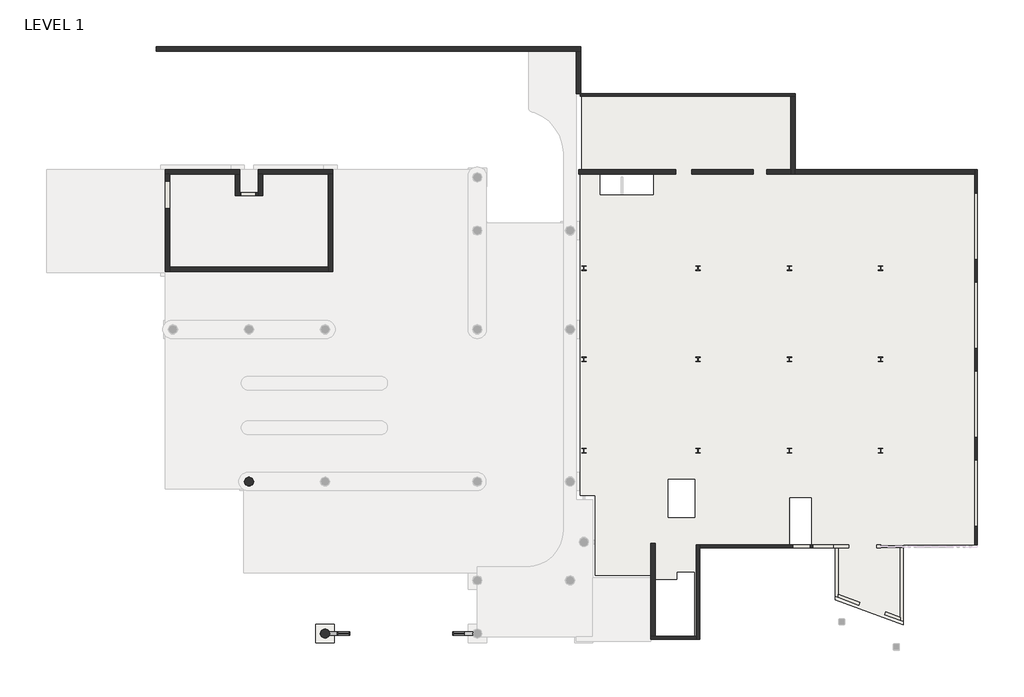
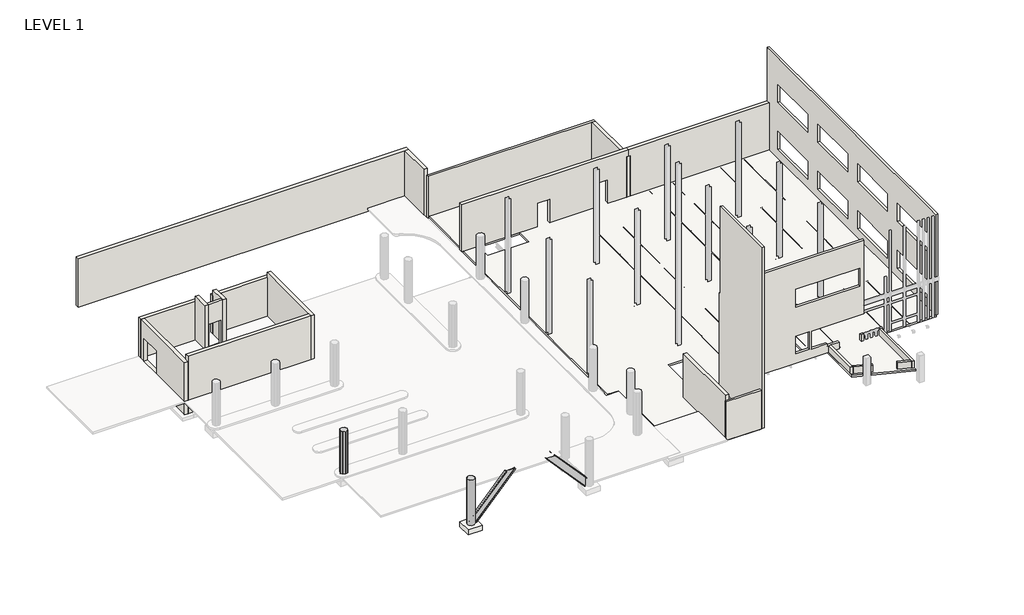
# One storey, part 1 of 3: 23 walls, 2 columns, 2 members, 2 slabs.
"""IFC4 building model written with IfcOpenShell, lengths in millimetres."""

from ifc_helpers import new_model, si_unit, point, frame, frame_2d, origin, origin_with_axes, place, context, project, spatial, polyline, circle_curve, ellipse_curve, trimmed, segment, composite_curve, outline, extrude, faceted_brep, element, save
from ifc_brep_helpers import plane_surface, revolved_surface, advanced_brep

model = new_model("IFC4")

# Units and contexts
model_context = context("Model", 3, world=origin())
ifc_project = project(units=[si_unit("LENGTHUNIT", "METRE", prefix="MILLI")], contexts=[model_context])

# Site, building, storey
site = spatial("IfcSite", under=ifc_project)
building = spatial("IfcBuilding", under=site)
storey = spatial("IfcBuildingStorey", under=building, Name="LEVEL 1", Elevation=0.0)

# Columns
placement = place(None, origin())
element("IfcColumn", 1, ObjectType="Concrete-Round-Column : 24\"", at=placement, inside=storey, context=model_context, shape_type="SweptSolid", body=[
    extrude(outline(composite_curve([segment(trimmed(circle_curve(frame_2d((-13743.0492735, -6142.2413682)), 304.8), [point((-14047.8492735, -6142.2413682))], [point((-13438.2492735, -6142.2413682))], False, "CARTESIAN"), True, "CONTINUOUS"), segment(trimmed(circle_curve(frame_2d((-13743.0492735, -6142.2413682)), 304.8), [point((-13438.2492735, -6142.2413682))], [point((-14047.8492735, -6142.2413682))], False, "CARTESIAN"), True, "CONTINUOUS")], self_intersect=False)), frame((0.0, 0.0, -152.4), z_axis=(0.0, 0.0, 1.0), x_axis=(1.0, 0.0, 0.0)), (0.0, 0.0, 1.0), 4140.2),
    extrude(outline(composite_curve([segment(trimmed(circle_curve(frame_2d((-13743.0492735, -6142.2413682)), 311.15), [point((-14054.1992735, -6142.2413682))], [point((-13431.8992735, -6142.2413682))], False, "CARTESIAN"), True, "CONTINUOUS"), segment(trimmed(circle_curve(frame_2d((-13743.0492735, -6142.2413682)), 311.15), [point((-13431.8992735, -6142.2413682))], [point((-14054.1992735, -6142.2413682))], False, "CARTESIAN"), True, "CONTINUOUS")], self_intersect=False), holes=[composite_curve([segment(trimmed(circle_curve(frame_2d((-13743.0492735, -6142.2413682)), 304.8), [point((-14047.8492735, -6142.2413682))], [point((-13438.2492735, -6142.2413682))], True, "CARTESIAN"), True, "CONTINUOUS"), segment(trimmed(circle_curve(frame_2d((-13743.0492735, -6142.2413682)), 304.8), [point((-13438.2492735, -6142.2413682))], [point((-14047.8492735, -6142.2413682))], True, "CARTESIAN"), True, "CONTINUOUS")], self_intersect=False)]), frame((0.0, 0.0, -152.4), z_axis=(0.0, 0.0, 1.0), x_axis=(1.0, 0.0, 0.0)), (0.0, 0.0, 1.0), 4140.2),
])
element("IfcColumn", 2, ObjectType="Concrete-Round-Column : 24\"", at=placement, inside=storey, context=model_context, shape_type="SweptSolid", body=[
    extrude(outline(composite_curve([segment(trimmed(circle_curve(frame_2d((-8663.0492735, -16302.2413682)), 304.8), [point((-8967.8492735, -16302.2413682))], [point((-8358.2492735, -16302.2413682))], False, "CARTESIAN"), True, "CONTINUOUS"), segment(trimmed(circle_curve(frame_2d((-8663.0492735, -16302.2413682)), 304.8), [point((-8358.2492735, -16302.2413682))], [point((-8967.8492735, -16302.2413682))], False, "CARTESIAN"), True, "CONTINUOUS")], self_intersect=False)), frame((0.0, 0.0, -152.4), z_axis=(0.0, 0.0, 1.0), x_axis=(1.0, 0.0, 0.0)), (0.0, 0.0, 1.0), 4140.2),
    extrude(outline(composite_curve([segment(trimmed(circle_curve(frame_2d((-8663.0492735, -16302.2413682)), 311.15), [point((-8974.1992735, -16302.2413682))], [point((-8351.8992735, -16302.2413682))], False, "CARTESIAN"), True, "CONTINUOUS"), segment(trimmed(circle_curve(frame_2d((-8663.0492735, -16302.2413682)), 311.15), [point((-8351.8992735, -16302.2413682))], [point((-8974.1992735, -16302.2413682))], False, "CARTESIAN"), True, "CONTINUOUS")], self_intersect=False), holes=[composite_curve([segment(trimmed(circle_curve(frame_2d((-8663.0492735, -16302.2413682)), 304.8), [point((-8967.8492735, -16302.2413682))], [point((-8358.2492735, -16302.2413682))], True, "CARTESIAN"), True, "CONTINUOUS"), segment(trimmed(circle_curve(frame_2d((-8663.0492735, -16302.2413682)), 304.8), [point((-8358.2492735, -16302.2413682))], [point((-8967.8492735, -16302.2413682))], True, "CARTESIAN"), True, "CONTINUOUS")], self_intersect=False)]), frame((0.0, 0.0, -152.4), z_axis=(0.0, 0.0, 1.0), x_axis=(1.0, 0.0, 0.0)), (0.0, 0.0, 1.0), 4140.2),
])

# Members
element("IfcMember", 3, ObjectType="W-Wide Flange : W24X68", at=placement, inside=storey, context=model_context, shape_type="AdvancedBrep", body=[
    advanced_brep(
    [(-4895.3762239, -16188.3223682, 3566.6417739), (-4895.3762239, -16273.7298682, 3566.6417739), (-4902.3097306, -16292.3779386, 3572.9450171), (-4902.3097306, -16312.1047978, 3572.9450171), (-4895.3762239, -16330.7528682, 3566.6417739), (-4895.3762239, -16416.1603682, 3566.6417739), (-4884.3814979, -16416.1603682, 3556.646481), (-4884.3814979, -16188.3223682, 3556.646481), (-8451.3303197, -16188.3223682, -344.8734625), (-8440.3355937, -16188.3223682, -354.8687555), (-8440.3355937, -16416.1603682, -354.8687555), (-8451.3303197, -16416.1603682, -344.8734625), (-8451.3303197, -16330.7528682, -344.8734625), (-8468.5271987, -16307.5118682, -329.2397991), (-8857.5713483, -16307.5118682, 24.4397991), (-8874.7682273, -16330.7528682, 40.0734625), (-8874.7682273, -16416.1603682, 40.0734625), (-8885.7629533, -16416.1603682, 50.0687555), (-8885.7629533, -16188.3223682, 50.0687555), (-8874.7682273, -16188.3223682, 40.0734625), (-8874.7682273, -16273.7298682, 40.0734625), (-8857.5713483, -16296.9708682, 24.4397991), (-8468.5271987, -16296.9708682, -329.2397991), (-8451.3303197, -16273.7298682, -344.8734625), (-4921.0553774, -16296.9708682, 3572.9450171), (-5631.6292512, -16296.9708682, 3572.9450171), (-5663.0386761, -16273.7298682, 3572.9450171), (-5663.0386761, -16188.3223682, 3572.9450171), (-5683.1201117, -16188.3223682, 3572.9450171), (-5683.1201117, -16416.1603682, 3572.9450171), (-5663.0386761, -16416.1603682, 3572.9450171), (-5663.0386761, -16330.7528682, 3572.9450171), (-5631.6292512, -16307.5118682, 3572.9450171), (-4921.0553774, -16307.5118682, 3572.9450171)],
    [
        (0, 1),
        (1, 2, circle_curve(frame((-4912.5731029, -16273.7298682, 3582.2754373), z_axis=(-0.6726760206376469, 0.0, -0.7399371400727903), x_axis=(0.0, -1.0000000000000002, 0.0)), 23.241)),
        (2, 3),
        (3, 4, circle_curve(frame((-4912.5731029, -16330.7528682, 3582.2754373), z_axis=(-0.6726760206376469, 0.0, -0.7399371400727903), x_axis=(0.0, -1.0000000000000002, 0.0)), 23.241)),
        (4, 5),
        (5, 6),
        (6, 7),
        (7, 0),
        (8, 9),
        (9, 10),
        (10, 11),
        (11, 12),
        (12, 13, circle_curve(frame((-8468.5271987, -16330.7528682, -329.2397991), z_axis=(0.6726760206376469, 0.0, 0.7399371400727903), x_axis=(0.0, -1.0000000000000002, 0.0)), 23.241)),
        (13, 14),
        (14, 15, circle_curve(frame((-8857.5713483, -16330.7528682, 24.4397991), z_axis=(0.6726760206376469, 0.0, 0.7399371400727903), x_axis=(0.0, -1.0000000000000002, 0.0)), 23.241)),
        (15, 16),
        (16, 17),
        (17, 18),
        (18, 19),
        (19, 20),
        (20, 21, circle_curve(frame((-8857.5713483, -16273.7298682, 24.4397991), z_axis=(0.6726760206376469, 0.0, 0.7399371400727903), x_axis=(0.0, -1.0000000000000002, 0.0)), 23.241)),
        (21, 22),
        (22, 23, circle_curve(frame((-8468.5271987, -16273.7298682, -329.2397991), z_axis=(0.6726760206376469, 0.0, 0.7399371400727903), x_axis=(0.0, -1.0000000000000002, 0.0)), 23.241)),
        (23, 8),
        (0, 8),
        (23, 1),
        (22, 24),
        (24, 2, ellipse_curve(frame((-4921.0553774, -16273.7298682, 3572.9450171), z_axis=(0.0, 0.0, 1.0), x_axis=(-1.0, 0.0, 0.0)), 31.4094249, 23.241)),
        (21, 25),
        (25, 24),
        (20, 26),
        (26, 25, ellipse_curve(frame((-5631.6292512, -16273.7298682, 3572.9450171), z_axis=(0.0, 0.0, 1.0), x_axis=(-1.0, 0.0, 0.0)), 31.4094249, 23.241)),
        (19, 27),
        (27, 26),
        (18, 28),
        (28, 27),
        (17, 29),
        (29, 28),
        (16, 30),
        (30, 29),
        (15, 31),
        (31, 30),
        (14, 32),
        (32, 31, ellipse_curve(frame((-5631.6292512, -16330.7528682, 3572.9450171), z_axis=(0.0, 0.0, 1.0), x_axis=(-1.0, 0.0, 0.0)), 31.4094249, 23.241)),
        (13, 33),
        (33, 32),
        (12, 4),
        (3, 33, ellipse_curve(frame((-4921.0553774, -16330.7528682, 3572.9450171), z_axis=(0.0, 0.0, 1.0), x_axis=(-1.0, 0.0, 0.0)), 31.4094249, 23.241)),
        (11, 5),
        (10, 6),
        (9, 7),
    ],
    [
        plane_surface(frame((-5107.0951777, -16302.2413682, 3759.1152364), z_axis=(0.6726760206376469, 0.0, 0.7399371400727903), x_axis=(-0.7399371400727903, 0.0, 0.6726760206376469))),
        plane_surface(frame((-8663.0492735, -16302.2413682, -152.4), z_axis=(-0.6726760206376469, 0.0, -0.7399371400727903), x_axis=(-0.7399371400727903, 0.0, 0.6726760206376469))),
        plane_surface(frame((-4895.3762239, -16188.3223682, 3566.6417739), z_axis=(-0.7399371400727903, 0.0, 0.6726760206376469), x_axis=(-0.6726760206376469, 0.0, -0.7399371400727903))),
        revolved_surface(polyline([(-8468.527198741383, -16296.9708682, -329.23979913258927), (-4906.842831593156, -16296.9708682, 3588.5786805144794)]), (-4912.5731029, -16273.7298682, 3582.2754373), (-0.672676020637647, 0.0, -0.7399371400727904)),
        plane_surface(frame((-4912.5731029, -16296.9708682, 3582.2754373), z_axis=(0.0, 1.0, 0.0), x_axis=(-0.6726760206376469, 0.0, -0.7399371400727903))),
        revolved_surface(polyline([(-8857.571348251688, -16296.9708682, 24.439799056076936), (-5617.4167054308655, -16296.9708682, 3588.5786805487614)]), (-5301.6172524, -16273.7298682, 3935.9550355), (-0.672676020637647, 0.0, -0.7399371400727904)),
        plane_surface(frame((-5318.8141315, -16273.7298682, 3951.5886989), z_axis=(0.7399371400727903, 0.0, -0.6726760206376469), x_axis=(-0.6726760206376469, 0.0, -0.7399371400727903))),
        plane_surface(frame((-5318.8141315, -16188.3223682, 3951.5886989), z_axis=(0.0, 1.0, 0.0), x_axis=(-0.6726760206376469, 0.0, -0.7399371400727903))),
        plane_surface(frame((-5329.8088575, -16188.3223682, 3961.5839919), z_axis=(-0.7399371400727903, 0.0, 0.6726760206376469), x_axis=(-0.6726760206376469, 0.0, -0.7399371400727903))),
        plane_surface(frame((-5329.8088575, -16416.1603682, 3961.5839919), z_axis=(0.0, -1.0, 0.0), x_axis=(-0.6726760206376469, 0.0, -0.7399371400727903))),
        plane_surface(frame((-5318.8141315, -16416.1603682, 3951.5886989), z_axis=(0.7399371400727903, 0.0, -0.6726760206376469), x_axis=(-0.6726760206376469, 0.0, -0.7399371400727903))),
        revolved_surface(polyline([(-8857.571348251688, -16353.9938682, 24.439799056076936), (-5617.4167054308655, -16353.9938682, 3588.5786805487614)]), (-5301.6172524, -16330.7528682, 3935.9550355), (-0.672676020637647, 0.0, -0.7399371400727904)),
        plane_surface(frame((-5301.6172524, -16307.5118682, 3935.9550355), z_axis=(0.0, -1.0, 0.0), x_axis=(-0.6726760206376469, 0.0, -0.7399371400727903))),
        revolved_surface(polyline([(-8468.527198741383, -16353.9938682, -329.23979913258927), (-4906.842831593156, -16353.9938682, 3588.5786805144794)]), (-4912.5731029, -16330.7528682, 3582.2754373), (-0.672676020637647, 0.0, -0.7399371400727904)),
        plane_surface(frame((-4895.3762239, -16330.7528682, 3566.6417739), z_axis=(-0.7399371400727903, 0.0, 0.6726760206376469), x_axis=(-0.6726760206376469, 0.0, -0.7399371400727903))),
        plane_surface(frame((-4895.3762239, -16416.1603682, 3566.6417739), z_axis=(0.0, -1.0, 0.0), x_axis=(-0.6726760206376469, 0.0, -0.7399371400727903))),
        plane_surface(frame((-4884.3814979, -16416.1603682, 3556.646481), z_axis=(0.7399371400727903, 0.0, -0.6726760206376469), x_axis=(-0.6726760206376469, 0.0, -0.7399371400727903))),
        plane_surface(frame((-4884.3814979, -16188.3223682, 3556.646481), z_axis=(0.0, 1.0, 0.0), x_axis=(-0.6726760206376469, 0.0, -0.7399371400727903))),
        plane_surface(frame((-5940.0727705, -21588.5218163, 3572.9450171), z_axis=(0.0, 0.0, 1.0), x_axis=(0.0, 1.0, 0.0))),
    ],
    [
        (0, [[1, 2, 3, 4, 5, 6, 7, 8]]),
        (1, [[9, 10, 11, 12, 13, 14, 15, 16, 17, 18, 19, 20, 21, 22, 23, 24]]),
        (2, [[-1, 25, -24, 26]]),
        (3, [[-23, 27, 28, -2, -26]]),
        (4, [[-22, 29, 30, -27]]),
        (5, [[-21, 31, 32, -29]]),
        (6, [[-20, 33, 34, -31]]),
        (7, [[-19, 35, 36, -33]]),
        (8, [[-18, 37, 38, -35]]),
        (9, [[-17, 39, 40, -37]]),
        (10, [[-16, 41, 42, -39]]),
        (11, [[-15, 43, 44, -41]]),
        (12, [[-14, 45, 46, -43]]),
        (13, [[-13, 47, -4, 48, -45]]),
        (14, [[-5, -47, -12, 49]]),
        (15, [[-6, -49, -11, 50]]),
        (16, [[-7, -50, -10, 51]]),
        (17, [[-8, -51, -9, -25]]),
        (18, [[-3, -28, -30, -32, -34, -36, -38, -40, -42, -44, -46, -48]]),
    ],
),
])
element("IfcMember", 4, ObjectType="W-Wide Flange : W24X68", at=placement, inside=storey, context=model_context, shape_type="AdvancedBrep", body=[
    advanced_brep(
    [(-1847.2844155, -16188.3223682, 3951.5886989), (-1847.2844155, -16273.7298682, 3951.5886989), (-1856.3177819, -16294.1852677, 3943.3764756), (-1856.3177819, -16310.2974687, 3943.3764756), (-1847.2844155, -16330.7528682, 3951.5886989), (-1847.2844155, -16416.1603682, 3951.5886989), (-1836.2896895, -16416.1603682, 3961.5839919), (-1836.2896895, -16188.3223682, 3961.5839919), (-1839.8186926, -16273.7298682, 3943.3764756), (-1839.8186926, -16188.3223682, 3943.3764756), (-1819.737257, -16188.3223682, 3943.3764756), (-1819.737257, -16416.1603682, 3943.3764756), (-1839.8186926, -16416.1603682, 3943.3764756), (-1839.8186926, -16330.7528682, 3943.3764756)],
    [
        (0, 1),
        (1, 2, circle_curve(frame((-1864.4812946, -16273.7298682, 3935.9550355), z_axis=(0.6726760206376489, 0.0, -0.7399371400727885), x_axis=(0.0, -1.0000000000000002, 0.0)), 23.241)),
        (2, 3),
        (3, 4, circle_curve(frame((-1864.4812946, -16330.7528682, 3935.9550355), z_axis=(0.6726760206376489, 0.0, -0.7399371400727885), x_axis=(0.0, -1.0000000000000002, 0.0)), 23.241)),
        (4, 5),
        (5, 6),
        (6, 7),
        (7, 0),
        (1, 8),
        (8, 2, ellipse_curve(frame((-1871.2281174, -16273.7298682, 3943.3764756), z_axis=(0.0, 0.0, -1.0), x_axis=(1.0, 0.0, 0.0)), 31.4094249, 23.241)),
        (0, 9),
        (9, 8),
        (7, 10),
        (10, 9),
        (6, 11),
        (11, 10),
        (5, 12),
        (12, 11),
        (4, 13),
        (13, 12),
        (3, 13, ellipse_curve(frame((-1871.2281174, -16330.7528682, 3943.3764756), z_axis=(0.0, 0.0, -1.0), x_axis=(1.0, 0.0, 0.0)), 31.4094249, 23.241)),
    ],
    [
        plane_surface(frame((-2059.0033693, -16302.2413682, 3759.1152364), z_axis=(-0.6726760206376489, 0.0, 0.7399371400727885), x_axis=(0.7399371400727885, 0.0, 0.6726760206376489))),
        revolved_surface(polyline([(-1857.0155716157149, -16296.9708682, 3927.742812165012), (-1885.4406632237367, -16296.9708682, 3959.010138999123)]), (-1864.4812946, -16273.7298682, 3935.9550355), (0.672676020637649, 0.0, -0.7399371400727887)),
        plane_surface(frame((-1847.2844155, -16273.7298682, 3951.5886989), z_axis=(-0.7399371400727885, 0.0, -0.6726760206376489), x_axis=(0.6726760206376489, 0.0, -0.7399371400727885))),
        plane_surface(frame((-1847.2844155, -16188.3223682, 3951.5886989), z_axis=(0.0, 1.0, 0.0), x_axis=(0.6726760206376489, 0.0, -0.7399371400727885))),
        plane_surface(frame((-1836.2896895, -16188.3223682, 3961.5839919), z_axis=(0.7399371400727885, 0.0, 0.6726760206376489), x_axis=(0.6726760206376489, 0.0, -0.7399371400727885))),
        plane_surface(frame((-1836.2896895, -16416.1603682, 3961.5839919), z_axis=(0.0, -1.0, 0.0), x_axis=(0.6726760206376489, 0.0, -0.7399371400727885))),
        plane_surface(frame((-1847.2844155, -16416.1603682, 3951.5886989), z_axis=(-0.7399371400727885, 0.0, -0.6726760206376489), x_axis=(0.6726760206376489, 0.0, -0.7399371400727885))),
        revolved_surface(polyline([(-1857.0155716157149, -16353.9938682, 3927.742812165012), (-1885.4406632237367, -16353.9938682, 3959.010138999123)]), (-1864.4812946, -16330.7528682, 3935.9550355), (0.672676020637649, 0.0, -0.7399371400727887)),
        plane_surface(frame((-2389.1308581, -11015.9609201, 3943.3764756), z_axis=(0.0, 0.0, -1.0), x_axis=(0.0, -1.0, 0.0))),
    ],
    [
        (0, [[1, 2, 3, 4, 5, 6, 7, 8]]),
        (1, [[-2, 9, 10]]),
        (2, [[-1, 11, 12, -9]]),
        (3, [[-8, 13, 14, -11]]),
        (4, [[-7, 15, 16, -13]]),
        (5, [[-6, 17, 18, -15]]),
        (6, [[-5, 19, 20, -17]]),
        (7, [[-4, 21, -19]]),
        (8, [[-3, -10, -12, -14, -16, -18, -20, -21]]),
    ],
),
    advanced_brep(
    [(1274.2370467, -16188.3223682, -354.8687555), (1285.2317727, -16188.3223682, -344.8734625), (1285.2317727, -16273.7298682, -344.8734625), (1302.4286517, -16296.9708682, -329.2397991), (1691.4728013, -16296.9708682, 24.4397991), (1708.6696803, -16273.7298682, 40.0734625), (1708.6696803, -16188.3223682, 40.0734625), (1719.6644063, -16188.3223682, 50.0687555), (1719.6644063, -16416.1603682, 50.0687555), (1708.6696803, -16416.1603682, 40.0734625), (1708.6696803, -16330.7528682, 40.0734625), (1691.4728013, -16307.5118682, 24.4397991), (1302.4286517, -16307.5118682, -329.2397991), (1285.2317727, -16330.7528682, -344.8734625), (1285.2317727, -16416.1603682, -344.8734625), (1274.2370467, -16416.1603682, -354.8687555), (-2191.7986332, -16188.3223682, 3479.8264756), (-2191.7986332, -16273.7298682, 3479.8264756), (-2160.3892083, -16296.9708682, 3479.8264756), (-1449.8153345, -16296.9708682, 3479.8264756), (-1418.4059097, -16273.7298682, 3479.8264756), (-1418.4059097, -16188.3223682, 3479.8264756), (-1398.3244741, -16188.3223682, 3479.8264756), (-1398.3244741, -16416.1603682, 3479.8264756), (-1418.4059097, -16416.1603682, 3479.8264756), (-1418.4059097, -16330.7528682, 3479.8264756), (-1449.8153345, -16307.5118682, 3479.8264756), (-2160.3892083, -16307.5118682, 3479.8264756), (-2191.7986332, -16330.7528682, 3479.8264756), (-2191.7986332, -16416.1603682, 3479.8264756), (-2211.8800688, -16416.1603682, 3479.8264756), (-2211.8800688, -16188.3223682, 3479.8264756)],
    [
        (0, 1),
        (1, 2),
        (2, 3, circle_curve(frame((1302.4286517, -16273.7298682, -329.2397991), z_axis=(-0.6726760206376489, 0.0, 0.7399371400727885), x_axis=(0.0, -1.0000000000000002, 0.0)), 23.241)),
        (3, 4),
        (4, 5, circle_curve(frame((1691.4728013, -16273.7298682, 24.4397991), z_axis=(-0.6726760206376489, 0.0, 0.7399371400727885), x_axis=(0.0, -1.0000000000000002, 0.0)), 23.241)),
        (5, 6),
        (6, 7),
        (7, 8),
        (8, 9),
        (9, 10),
        (10, 11, circle_curve(frame((1691.4728013, -16330.7528682, 24.4397991), z_axis=(-0.6726760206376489, 0.0, 0.7399371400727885), x_axis=(0.0, -1.0000000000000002, 0.0)), 23.241)),
        (11, 12),
        (12, 13, circle_curve(frame((1302.4286517, -16330.7528682, -329.2397991), z_axis=(-0.6726760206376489, 0.0, 0.7399371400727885), x_axis=(0.0, -1.0000000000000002, 0.0)), 23.241)),
        (13, 14),
        (14, 15),
        (15, 0),
        (1, 16),
        (16, 17),
        (17, 2),
        (17, 18, ellipse_curve(frame((-2160.3892083, -16273.7298682, 3479.8264756), z_axis=(0.0, 0.0, 1.0), x_axis=(1.0, 0.0, 0.0)), 31.4094249, 23.241)),
        (18, 3),
        (18, 19),
        (19, 4),
        (19, 20, ellipse_curve(frame((-1449.8153345, -16273.7298682, 3479.8264756), z_axis=(0.0, 0.0, 1.0), x_axis=(1.0, 0.0, 0.0)), 31.4094249, 23.241)),
        (20, 5),
        (20, 21),
        (21, 6),
        (21, 22),
        (22, 7),
        (22, 23),
        (23, 8),
        (23, 24),
        (24, 9),
        (24, 25),
        (25, 10),
        (25, 26, ellipse_curve(frame((-1449.8153345, -16330.7528682, 3479.8264756), z_axis=(0.0, 0.0, 1.0), x_axis=(1.0, 0.0, 0.0)), 31.4094249, 23.241)),
        (26, 11),
        (26, 27),
        (27, 12),
        (27, 28, ellipse_curve(frame((-2160.3892083, -16330.7528682, 3479.8264756), z_axis=(0.0, 0.0, 1.0), x_axis=(1.0, 0.0, 0.0)), 31.4094249, 23.241)),
        (28, 13),
        (28, 29),
        (29, 14),
        (29, 30),
        (30, 15),
        (30, 31),
        (31, 0),
        (31, 16),
    ],
    [
        plane_surface(frame((1496.9507265, -16302.2413682, -152.4), z_axis=(0.6726760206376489, 0.0, -0.7399371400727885), x_axis=(0.7399371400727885, 0.0, 0.6726760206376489))),
        plane_surface(frame((-2270.7223231, -16188.3223682, 3566.6417739), z_axis=(0.7399371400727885, 0.0, 0.6726760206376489), x_axis=(0.6726760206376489, 0.0, -0.7399371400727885))),
        revolved_surface(polyline([(1302.4286517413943, -16296.9708682, -329.2397991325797), (-2174.6017541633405, -16296.9708682, 3495.460138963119)]), (-2253.5254441, -16273.7298682, 3582.2754373), (0.672676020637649, 0.0, -0.7399371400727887)),
        plane_surface(frame((-2253.5254441, -16296.9708682, 3582.2754373), z_axis=(0.0, 1.0, 0.0), x_axis=(0.6726760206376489, 0.0, -0.7399371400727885))),
        revolved_surface(polyline([(1691.4728012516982, -16296.9708682, 24.43979905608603), (-1464.02788032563, -16296.9708682, 3495.4601389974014)]), (-1864.4812946, -16273.7298682, 3935.9550355), (0.672676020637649, 0.0, -0.7399371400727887)),
        plane_surface(frame((-1847.2844155, -16273.7298682, 3951.5886989), z_axis=(-0.7399371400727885, 0.0, -0.6726760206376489), x_axis=(0.6726760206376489, 0.0, -0.7399371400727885))),
        plane_surface(frame((-1847.2844155, -16188.3223682, 3951.5886989), z_axis=(0.0, 1.0, 0.0), x_axis=(0.6726760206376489, 0.0, -0.7399371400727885))),
        plane_surface(frame((-1836.2896895, -16188.3223682, 3961.5839919), z_axis=(0.7399371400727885, 0.0, 0.6726760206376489), x_axis=(0.6726760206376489, 0.0, -0.7399371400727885))),
        plane_surface(frame((-1836.2896895, -16416.1603682, 3961.5839919), z_axis=(0.0, -1.0, 0.0), x_axis=(0.6726760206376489, 0.0, -0.7399371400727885))),
        plane_surface(frame((-1847.2844155, -16416.1603682, 3951.5886989), z_axis=(-0.7399371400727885, 0.0, -0.6726760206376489), x_axis=(0.6726760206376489, 0.0, -0.7399371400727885))),
        revolved_surface(polyline([(1691.4728012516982, -16353.9938682, 24.43979905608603), (-1464.02788032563, -16353.9938682, 3495.4601389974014)]), (-1864.4812946, -16330.7528682, 3935.9550355), (0.672676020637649, 0.0, -0.7399371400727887)),
        plane_surface(frame((-1864.4812946, -16307.5118682, 3935.9550355), z_axis=(0.0, -1.0, 0.0), x_axis=(0.6726760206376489, 0.0, -0.7399371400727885))),
        revolved_surface(polyline([(1302.4286517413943, -16353.9938682, -329.2397991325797), (-2174.6017541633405, -16353.9938682, 3495.460138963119)]), (-2253.5254441, -16330.7528682, 3582.2754373), (0.672676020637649, 0.0, -0.7399371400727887)),
        plane_surface(frame((-2270.7223231, -16330.7528682, 3566.6417739), z_axis=(0.7399371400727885, 0.0, 0.6726760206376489), x_axis=(0.6726760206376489, 0.0, -0.7399371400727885))),
        plane_surface(frame((-2270.7223231, -16416.1603682, 3566.6417739), z_axis=(0.0, -1.0, 0.0), x_axis=(0.6726760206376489, 0.0, -0.7399371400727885))),
        plane_surface(frame((-2281.7170491, -16416.1603682, 3556.646481), z_axis=(-0.7399371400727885, 0.0, -0.6726760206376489), x_axis=(0.6726760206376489, 0.0, -0.7399371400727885))),
        plane_surface(frame((-2281.7170491, -16188.3223682, 3556.646481), z_axis=(0.0, 1.0, 0.0), x_axis=(0.6726760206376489, 0.0, -0.7399371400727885))),
        plane_surface(frame((-1328.4552748, -11015.9609201, 3479.8264756), z_axis=(0.0, 0.0, 1.0), x_axis=(0.0, -1.0, 0.0))),
    ],
    [
        (0, [[1, 2, 3, 4, 5, 6, 7, 8, 9, 10, 11, 12, 13, 14, 15, 16]]),
        (1, [[-2, 17, 18, 19]]),
        (2, [[-3, -19, 20, 21]]),
        (3, [[-4, -21, 22, 23]]),
        (4, [[-5, -23, 24, 25]]),
        (5, [[-6, -25, 26, 27]]),
        (6, [[-7, -27, 28, 29]]),
        (7, [[-8, -29, 30, 31]]),
        (8, [[-9, -31, 32, 33]]),
        (9, [[-10, -33, 34, 35]]),
        (10, [[-11, -35, 36, 37]]),
        (11, [[-12, -37, 38, 39]]),
        (12, [[-13, -39, 40, 41]]),
        (13, [[-14, -41, 42, 43]]),
        (14, [[-15, -43, 44, 45]]),
        (15, [[-16, -45, 46, 47]]),
        (16, [[-1, -47, 48, -17]]),
        (17, [[-18, -48, -46, -44, -42, -40, -38, -36, -34, -32, -30, -28, -26, -24, -22, -20]]),
    ],
),
])

# Slabs
element("IfcSlab", 5, ObjectType="6\" Concrete Slab", at=placement, inside=storey, context=model_context, shape_type="SweptSolid", body=[
    extrude(outline(polyline([(34742.5793613, 14380.9586318), (34742.5793613, -10380.8663682), (29919.3470917, -10380.8663682), (29919.3470917, -15713.2373144), (25380.621921, -14033.767999), (25380.621921, -10380.8663682), (23817.2007265, -10380.8663682), (23817.2007265, -7189.9913682), (22328.1257265, -7189.9913682), (22328.1257265, -10380.8663682), (16101.7470917, -10380.8663682), (16101.7470917, -16527.6663682), (13383.9470917, -16527.6663682), (13383.9470917, -16505.4413682), (16025.5470917, -16505.4413682), (16025.5470917, -12191.8635119), (14819.0470917, -12191.8635119), (14819.0470917, -12687.1635119), (13383.9470917, -12687.1635119), (13383.9470917, -12412.8663682), (9370.7470917, -12412.8663682), (9370.7470917, -7056.6413682), (8383.3220917, -7056.6413682), (8383.3220917, 14380.9586318), (8459.5220917, 14380.9586318), (8459.5220917, 19584.7836318), (22426.3470917, 19584.7836318), (22426.3470917, 14380.9586318), (34742.5793613, 14380.9586318)]), holes=[polyline([(9689.6878376, 13009.3586318), (13231.5470917, 13009.3586318), (13231.5470917, 14380.9586318), (9689.6878376, 14380.9586318), (9689.6878376, 13009.3586318)]), polyline([(16025.5470917, -6008.8913682), (14241.1970917, -6008.8913682), (14241.1970917, -8555.2413682), (16025.5470917, -8555.2413682), (16025.5470917, -6008.8913682)])]), frame((0.0, 0.0, -152.4), z_axis=(0.0, 0.0, 1.0), x_axis=(1.0, 0.0, 0.0)), (0.0, 0.0, 1.0), 152.4),
])
element("IfcSlab", 6, ObjectType="Footing-Rectangular : 48\" x 48\" x 18\"", at=placement, inside=storey, context=model_context, shape_type="SweptSolid", body=[
    extrude(outline(polyline([(-8052.0584842, -15692.6413682), (-8052.0584842, -16911.8413682), (-9271.2584842, -16911.8413682), (-9271.2584842, -15692.6413682), (-8052.0584842, -15692.6413682)])), frame((0.0, 0.0, -609.6), z_axis=(0.0, 0.0, 1.0), x_axis=(1.0, 0.0, 0.0)), (0.0, 0.0, 1.0), 457.2),
])

# Walls
element("IfcWall", 7, ObjectType="CMU_10\" - BIM-M", at=placement, inside=storey, context=model_context, shape_type="Brep", body=[
    faceted_brep([(16101.7470917, -10503.1038682, 16459.2), (16101.7470917, -16670.5413682, 16459.2), (16346.2220917, -16670.5413682, 16459.2), (16346.2220917, -10503.1038682, 16459.2), (16101.7470917, -10380.8663682, 0.0), (16101.7470917, -16476.8663682, 0.0), (16101.7470917, -16670.5413682, 0.0), (16101.7470917, -16670.5413682, 3505.2), (16101.7470917, -10503.1038682, 8534.4), (16101.7470917, -10380.8663682, 8534.4), (16346.2220917, -10380.8663682, 0.0), (16346.2220917, -10380.8663682, 8534.4), (16346.2220917, -10503.1038682, 8534.4), (16346.2220917, -16670.5413682, 0.0), (16346.2220917, -10574.5413682, 0.0)], [[[0, 1, 2, 3]], [[4, 5, 6, 7, 1, 0, 8, 9]], [[10, 11, 12, 3, 2, 13, 14]], [[6, 5, 4, 10, 14, 13]], [[1, 7, 6, 13, 2]], [[8, 12, 11, 9]], [[0, 3, 12, 8]], [[4, 9, 11, 10]]]),
])
element("IfcWall", 8, ObjectType="CMU_8\" - BIM-M", at=placement, inside=storey, context=model_context, shape_type="Brep", body=[
    faceted_brep([(34885.4543613, 14685.7586318, 9144.0), (34885.4543613, -10380.8663682, 9144.0), (34885.4543613, -10380.8663682, 0.0), (34885.4543613, 14685.7586318, 0.0), (34885.4543613, -9154.0585287, 2438.4), (34885.4543613, -4697.4296035, 2438.4), (34885.4543613, -4697.4296035, 813.3629772), (34885.4543613, -9154.0585287, 813.3629772), (34885.4543613, -3212.2766623, 2438.4), (34885.4543613, 1243.1821612, 2438.4), (34885.4543613, 1243.1821612, 812.3268075), (34885.4543613, -3212.2766623, 812.3268075), (34885.4543613, 2728.3351024, 2438.4), (34885.4543613, 7183.7939259, 2438.4), (34885.4543613, 7183.7939259, 812.8), (34885.4543613, 2728.3351024, 812.8), (34885.4543613, 8668.9468671, 2438.4), (34885.4543613, 13124.4056906, 2438.4), (34885.4543613, 13124.4056906, 812.8), (34885.4543613, 8668.9468671, 812.8), (34885.4543613, -9152.888427, 6705.6), (34885.4543613, -4697.4296035, 6705.6), (34885.4543613, -4697.4296035, 5080.0), (34885.4543613, -9152.888427, 5080.0), (34885.4543613, -3212.2766623, 6705.6), (34885.4543613, 1243.1821612, 6705.6), (34885.4543613, 1243.1821612, 5080.0), (34885.4543613, -3212.2766623, 5080.0), (34885.4543613, 2728.3351024, 6705.6), (34885.4543613, 7183.7939259, 6705.6), (34885.4543613, 7183.7939259, 5080.0), (34885.4543613, 2728.3351024, 5080.0), (34885.4543613, 8668.9468671, 6705.6), (34885.4543613, 13124.4056906, 6705.6), (34885.4543613, 13124.4056906, 5080.0), (34885.4543613, 8668.9468671, 5080.0), (34691.7793613, 14685.7586318, 0.0), (34691.7793613, 14380.9586318, 0.0), (34691.7793613, -10380.8663682, 0.0), (34691.7793613, -10380.8663682, 9144.0), (34691.7793613, 14380.9586318, 9144.0), (34691.7793613, 14574.6336318, 9144.0), (34691.7793613, 14685.7586318, 9144.0), (34691.7793613, 14685.7586318, 4267.2), (34691.7793613, -4697.4296035, 2438.4), (34691.7793613, -9154.0585287, 2438.4), (34691.7793613, -9154.0585287, 813.3629772), (34691.7793613, -4697.4296035, 813.3629772), (34691.7793613, 1243.1821612, 2438.4), (34691.7793613, -3212.2766623, 2438.4), (34691.7793613, -3212.2766623, 812.3268075), (34691.7793613, 1243.1821612, 812.3268075), (34691.7793613, 7183.7939259, 2438.4), (34691.7793613, 2728.3351024, 2438.4), (34691.7793613, 2728.3351024, 812.8), (34691.7793613, 7183.7939259, 812.8), (34691.7793613, 13124.4056906, 2438.4), (34691.7793613, 8668.9468671, 2438.4), (34691.7793613, 8668.9468671, 812.8), (34691.7793613, 13124.4056906, 812.8), (34691.7793613, -4697.4296035, 6705.6), (34691.7793613, -9152.888427, 6705.6), (34691.7793613, -9152.888427, 5080.0), (34691.7793613, -4697.4296035, 5080.0), (34691.7793613, 1243.1821612, 6705.6), (34691.7793613, -3212.2766623, 6705.6), (34691.7793613, -3212.2766623, 5080.0), (34691.7793613, 1243.1821612, 5080.0), (34691.7793613, 7183.7939259, 6705.6), (34691.7793613, 2728.3351024, 6705.6), (34691.7793613, 2728.3351024, 5080.0), (34691.7793613, 7183.7939259, 5080.0), (34691.7793613, 13124.4056906, 6705.6), (34691.7793613, 8668.9468671, 6705.6), (34691.7793613, 8668.9468671, 5080.0), (34691.7793613, 13124.4056906, 5080.0)], [[[0, 1, 2, 3], [4, 5, 6, 7], [8, 9, 10, 11], [12, 13, 14, 15], [16, 17, 18, 19], [20, 21, 22, 23], [24, 25, 26, 27], [28, 29, 30, 31], [32, 33, 34, 35]], [[36, 37, 38, 39, 40, 41, 42, 43], [44, 45, 46, 47], [48, 49, 50, 51], [52, 53, 54, 55], [56, 57, 58, 59], [60, 61, 62, 63], [64, 65, 66, 67], [68, 69, 70, 71], [72, 73, 74, 75]], [[4, 45, 44, 5]], [[6, 47, 46, 7]], [[45, 4, 7, 46]], [[5, 44, 47, 6]], [[8, 49, 48, 9]], [[10, 51, 50, 11]], [[49, 8, 11, 50]], [[9, 48, 51, 10]], [[12, 53, 52, 13]], [[14, 55, 54, 15]], [[53, 12, 15, 54]], [[13, 52, 55, 14]], [[16, 57, 56, 17]], [[18, 59, 58, 19]], [[57, 16, 19, 58]], [[17, 56, 59, 18]], [[20, 61, 60, 21]], [[22, 63, 62, 23]], [[61, 20, 23, 62]], [[21, 60, 63, 22]], [[24, 65, 64, 25]], [[26, 67, 66, 27]], [[65, 24, 27, 66]], [[25, 64, 67, 26]], [[28, 69, 68, 29]], [[30, 71, 70, 31]], [[69, 28, 31, 70]], [[29, 68, 71, 30]], [[32, 73, 72, 33]], [[34, 75, 74, 35]], [[73, 32, 35, 74]], [[33, 72, 75, 34]], [[2, 1, 39, 38]], [[3, 2, 38, 37, 36]], [[1, 0, 42, 41, 40, 39]], [[0, 3, 36, 43, 42]]]),
])
element("IfcWall", 9, ObjectType="CMU_8\" - BIM-M", at=placement, inside=storey, context=model_context, shape_type="Brep", body=[
    faceted_brep([(8362.6845917, 19584.7836318, -152.4), (22426.3470917, 19584.7836318, -152.4), (22731.1470917, 19584.7836318, -152.4), (22731.1470917, 19584.7836318, 3657.6), (22426.3470917, 19584.7836318, 3657.6), (8362.6845917, 19584.7836318, 3657.6), (8362.6845917, 19778.4586318, -152.4), (8362.6845917, 19778.4586318, 3657.6), (22731.1470917, 19778.4586318, 3657.6), (22731.1470917, 19778.4586318, -152.4)], [[[0, 1, 2, 3, 4, 5]], [[6, 7, 8, 9]], [[2, 1, 0, 6, 9]], [[5, 4, 3, 8, 7]], [[0, 5, 7, 6]], [[3, 2, 9, 8]]]),
])
element("IfcWall", 10, ObjectType="CMU_8\" - BIM-M", at=placement, inside=storey, context=model_context, shape_type="Brep", body=[
    faceted_brep([(16101.7470917, -16476.8663682, 0.0), (13383.9470917, -16476.8663682, 0.0), (13079.1470917, -16476.8663682, 0.0), (13079.1470917, -16476.8663682, 3505.2), (16101.7470917, -16476.8663682, 3505.2), (16101.7470917, -16670.5413682, 0.0), (16101.7470917, -16670.5413682, 3505.2), (13079.1470917, -16670.5413682, 3505.2), (13079.1470917, -16670.5413682, 0.0)], [[[0, 1, 2, 3, 4]], [[5, 6, 7, 8]], [[2, 1, 0, 5, 8]], [[4, 3, 7, 6]], [[3, 2, 8, 7]], [[0, 4, 6, 5]]]),
])
element("IfcWall", 11, ObjectType="CMU_8\" - BIM-M", at=placement, inside=storey, context=model_context, shape_type="Brep", body=[
    faceted_brep([(29725.6720917, -10574.5413682, 0.0), (29725.6720917, -15218.3972647, 0.0), (29725.6720917, -15424.9063148, 0.0), (29725.6720917, -15424.9063148, 609.6), (29725.6720917, -15218.3972647, 609.6), (29725.6720917, -10574.5413682, 609.6), (29919.3470917, -10574.5413682, 0.0), (29919.3470917, -10574.5413682, 609.6), (29919.3470917, -15496.5720816, 609.6), (29919.3470917, -15496.5720816, 0.0)], [[[0, 1, 2, 3, 4, 5]], [[6, 7, 8, 9]], [[2, 1, 0, 6, 9]], [[5, 4, 3, 8, 7]], [[3, 2, 9, 8]], [[0, 5, 7, 6]]]),
])
element("IfcWall", 12, ObjectType="CMU_8\" - BIM-M", at=placement, inside=storey, context=model_context, shape_type="Brep", body=[
    faceted_brep([(25580.646921, -13891.1182302, 0.0), (25580.646921, -13684.6091801, 0.0), (25580.646921, -10574.5413682, 0.0), (25580.646921, -10574.5413682, 609.6), (25580.646921, -13684.6091801, 609.6), (25580.646921, -13891.1182302, 609.6), (25386.971921, -13819.4524634, 0.0), (25386.971921, -13819.4524634, 609.6), (25386.971921, -10574.5413682, 609.6), (25386.971921, -10574.5413682, 0.0)], [[[0, 1, 2, 3, 4, 5]], [[6, 7, 8, 9]], [[2, 1, 0, 6, 9]], [[5, 4, 3, 8, 7]], [[0, 5, 7, 6]], [[3, 2, 9, 8]]]),
])
element("IfcWall", 13, ObjectType="CMU_8\" - BIM-M", at=placement, inside=storey, context=model_context, shape_type="SweptSolid", body=[
    extrude(outline(polyline([(26974.9116204, -14407.0394839), (25580.646921, -13891.1182302), (25580.646921, -13684.6091801), (27042.123529, -14225.400928), (26974.9116204, -14407.0394839)])), origin_with_axes(), (0.0, 0.0, 1.0), 609.6),
])
element("IfcWall", 14, ObjectType="CMU_8\" - BIM-M", at=placement, inside=storey, context=model_context, shape_type="SweptSolid", body=[
    extrude(outline(polyline([(29725.6720917, -15424.9063148), (28690.3319831, -15041.7983102), (28757.5438916, -14860.1597543), (29725.6720917, -15218.3972647), (29725.6720917, -15424.9063148)])), origin_with_axes(), (0.0, 0.0, 1.0), 609.6),
])
element("IfcWall", 15, ObjectType="CMU_8\" - BIM-M", at=placement, inside=storey, context=model_context, shape_type="Brep", body=[
    faceted_brep([(28179.5942185, -10380.8663682, 609.6), (28420.9507265, -10380.8663682, 609.6), (28420.9507265, -10380.8663682, 0.0), (28179.5942185, -10380.8663682, 0.0), (28420.9507265, -10574.5413682, 609.6), (28179.5942185, -10574.5413682, 609.6), (28179.5942185, -10574.5413682, 0.0), (28420.9507265, -10574.5413682, 0.0)], [[[0, 1, 2, 3]], [[4, 5, 6, 7]], [[2, 7, 6, 3]], [[7, 2, 1, 4]], [[3, 6, 5, 0]], [[1, 0, 5, 4]]]),
    faceted_brep([(16346.2220917, -10380.8663682, 0.0), (16346.2220917, -10380.8663682, 8534.4), (16346.2220917, -10380.8663682, 9144.0), (28420.9507265, -10380.8663682, 9144.0), (28420.9507265, -10380.8663682, 2438.4), (23878.9095917, -10380.8663682, 2438.4), (23878.9095917, -10380.8663682, 812.8), (25256.796921, -10380.8663682, 812.8), (25256.796921, -10380.8663682, 609.6), (26286.999965, -10380.8663682, 609.6), (26286.999965, -10380.8663682, 0.0), (28074.8757265, -10380.8663682, 5080.0), (28074.8757265, -10380.8663682, 6705.6), (22569.4257265, -10380.8663682, 6705.6), (22569.4257265, -10380.8663682, 5080.0), (23726.5095917, -10380.8663682, 2438.4), (22569.4257265, -10380.8663682, 2438.4), (22569.4257265, -10380.8663682, 863.6), (23726.5095917, -10380.8663682, 863.6), (16346.2220917, -10574.5413682, 9144.0), (16346.2220917, -10574.5413682, 0.0), (25386.971921, -10574.5413682, 0.0), (25580.646921, -10574.5413682, 0.0), (26286.999965, -10574.5413682, 0.0), (26286.999965, -10574.5413682, 609.6), (25580.646921, -10574.5413682, 609.6), (25386.971921, -10574.5413682, 609.6), (25256.796921, -10574.5413682, 609.6), (25256.796921, -10574.5413682, 812.8), (23878.9095917, -10574.5413682, 812.8), (23878.9095917, -10574.5413682, 2438.4), (28420.9507265, -10574.5413682, 2438.4), (28420.9507265, -10574.5413682, 9144.0), (28074.8757265, -10574.5413682, 6705.6), (28074.8757265, -10574.5413682, 5080.0), (22569.4257265, -10574.5413682, 5080.0), (22569.4257265, -10574.5413682, 6705.6), (22569.4257265, -10574.5413682, 2438.4), (23726.5095917, -10574.5413682, 2438.4), (23726.5095917, -10574.5413682, 863.6), (22569.4257265, -10574.5413682, 863.6)], [[[0, 1, 2, 3, 4, 5, 6, 7, 8, 9, 10], [11, 12, 13, 14], [15, 16, 17, 18]], [[19, 20, 21, 22, 23, 24, 25, 26, 27, 28, 29, 30, 31, 32], [33, 34, 35, 36], [37, 38, 39, 40]], [[20, 0, 10, 23, 22, 21]], [[3, 2, 19, 32]], [[3, 32, 31, 4]], [[12, 33, 36, 13]], [[34, 11, 14, 35]], [[33, 12, 11, 34]], [[30, 5, 4, 31]], [[8, 27, 26, 25, 24, 9]], [[27, 8, 7, 28]], [[10, 9, 24, 23]], [[13, 36, 35, 14]], [[15, 38, 37, 16]], [[17, 40, 39, 18]], [[38, 15, 18, 39]], [[16, 37, 40, 17]], [[0, 20, 19, 2, 1]], [[6, 29, 28, 7]], [[5, 30, 29, 6]]]),
])
element("IfcWall", 16, ObjectType="Conc_12\" - BIM-M", at=placement, inside=storey, context=model_context, shape_type="Brep", body=[
    faceted_brep([(22426.3470917, 19584.7836318, -152.4), (22426.3470917, 14380.9586318, -152.4), (22426.3470917, 14380.9586318, 0.0), (22426.3470917, 14380.9586318, 3657.6), (22426.3470917, 14685.7586318, 3657.6), (22426.3470917, 19584.7836318, 3657.6), (22731.1470917, 19584.7836318, -152.4), (22731.1470917, 19584.7836318, 3657.6), (22731.1470917, 14685.7586318, 3657.6), (22731.1470917, 14380.9586318, 3657.6), (22731.1470917, 14380.9586318, 0.0), (22731.1470917, 14380.9586318, -152.4), (22578.7470917, 14380.9586318, 3657.6)], [[[0, 1, 2, 3, 4, 5]], [[6, 7, 8, 9, 10, 11]], [[1, 0, 6, 11]], [[5, 4, 3, 12, 9, 8, 7]], [[3, 2, 1, 11, 10, 9, 12]], [[0, 5, 7, 6]]]),
])
element("IfcWall", 17, ObjectType="Conc_12\" - BIM-M", at=placement, inside=storey, context=model_context, shape_type="Brep", body=[
    faceted_brep([(14739.8711404, 14685.7586318, 2133.6), (14739.8711404, 14685.7586318, 0.0), (8272.1970917, 14685.7586318, 0.0), (8272.1970917, 14685.7586318, 4267.2), (14222.3507265, 14685.7586318, 4267.2), (14527.1507265, 14685.7586318, 4267.2), (22578.7470917, 14685.7586318, 4267.2), (22578.7470917, 14685.7586318, 3657.6), (22426.3470917, 14685.7586318, 3657.6), (22426.3470917, 14685.7586318, 0.0), (20829.3404651, 14685.7586318, 0.0), (20829.3404651, 14685.7586318, 2133.6), (19914.9404651, 14685.7586318, 2133.6), (19914.9404651, 14685.7586318, 0.0), (15806.6711404, 14685.7586318, 0.0), (15806.6711404, 14685.7586318, 2133.6), (8272.1970917, 14380.9586318, 0.0), (14739.8711404, 14380.9586318, 0.0), (14739.8711404, 14380.9586318, 2133.6), (15806.6711404, 14380.9586318, 2133.6), (15806.6711404, 14380.9586318, 0.0), (19914.9404651, 14380.9586318, 0.0), (19914.9404651, 14380.9586318, 2133.6), (20829.3404651, 14380.9586318, 2133.6), (20829.3404651, 14380.9586318, 0.0), (22426.3470917, 14380.9586318, 0.0), (22426.3470917, 14380.9586318, 3657.6), (22578.7470917, 14380.9586318, 3657.6), (22578.7470917, 14380.9586318, 4267.2), (8272.1970917, 14380.9586318, 4267.2)], [[[0, 1, 2, 3, 4, 5, 6, 7, 8, 9, 10, 11, 12, 13, 14, 15]], [[16, 17, 18, 19, 20, 21, 22, 23, 24, 25, 26, 27, 28, 29]], [[25, 24, 10, 9]], [[14, 13, 21, 20]], [[2, 1, 17, 16]], [[3, 2, 16, 29]], [[6, 5, 4, 3, 29, 28]], [[12, 11, 23, 22]], [[11, 10, 24, 23]], [[13, 12, 22, 21]], [[7, 6, 28, 27]], [[9, 8, 26, 25]], [[19, 18, 0, 15]], [[18, 17, 1, 0]], [[20, 19, 15, 14]], [[7, 27, 26, 8]]]),
])
element("IfcWall", 18, ObjectType="Conc_12\" - BIM-M", at=placement, inside=storey, context=model_context, shape_type="SweptSolid", body=[
    extrude(outline(polyline([(0.0, 34691.7793613), (4267.2, 34691.7793613), (4267.2, 22578.7470917), (3657.6, 22578.7470917), (3657.6, 22731.1470917), (0.0, 22731.1470917), (0.0, 34691.7793613)])), frame((0.0, 14380.9586318, 0.0), z_axis=(0.0, 1.0, 0.0), x_axis=(0.0, 0.0, 1.0)), (0.0, 0.0, 1.0), 304.8),
])
element("IfcWall", 19, ObjectType="Conc_12\" - BIM-M", at=placement, inside=storey, context=model_context, shape_type="Brep", body=[
    faceted_brep([(-8460.0529083, 14380.9586318, -1219.2), (-8460.0529083, 8183.3586318, -1219.2), (-8460.0529083, 7878.5586318, -1219.2), (-8460.0529083, 7878.5586318, 3987.8), (-8460.0529083, 8183.3586318, 3987.8), (-8460.0529083, 14380.9586318, 3987.8), (-8155.2529083, 14380.9586318, -1219.2), (-8155.2529083, 14380.9586318, 3505.2), (-8155.2529083, 14380.9586318, 3987.8), (-8155.2529083, 7878.5586318, 3987.8), (-8155.2529083, 7878.5586318, -1219.2)], [[[0, 1, 2, 3, 4, 5]], [[6, 7, 8, 9, 10]], [[2, 1, 0, 6, 10]], [[5, 4, 3, 9, 8]], [[0, 5, 8, 7, 6]], [[3, 2, 10, 9]]]),
])
element("IfcWall", 20, ObjectType="Conc_12\" - BIM-M", at=placement, inside=storey, context=model_context, shape_type="Brep", body=[
    faceted_brep([(-8155.2529083, 14685.7586318, -1219.2), (-13133.6529083, 14685.7586318, -1219.2), (-13133.6529083, 14685.7586318, 3505.2), (-8155.2529083, 14685.7586318, 3505.2), (-8155.2529083, 14380.9586318, -1219.2), (-8155.2529083, 14380.9586318, 3505.2), (-13133.6529083, 14380.9586318, 3505.2), (-13133.6529083, 14380.9586318, -1219.2), (-12828.8529083, 14380.9586318, -1219.2), (-8460.0529083, 14380.9586318, -1219.2)], [[[0, 1, 2, 3]], [[4, 5, 6, 7, 8, 9]], [[1, 0, 4, 9, 8, 7]], [[3, 2, 6, 5]], [[2, 1, 7, 6]], [[0, 3, 5, 4]]]),
])
element("IfcWall", 21, ObjectType="Conc_12\" - BIM-M", at=placement, inside=storey, context=model_context, shape_type="Brep", body=[
    faceted_brep([(-13133.6529083, 14380.9586318, -1219.2), (-13133.6529083, 13157.5059044, -1219.2), (-13133.6529083, 12954.3059044, -1219.2), (-13133.6529083, 12954.3059044, 3987.8), (-13133.6529083, 13157.5059044, 3987.8), (-13133.6529083, 14380.9586318, 3987.8), (-13133.6529083, 14380.9586318, 3505.2), (-12828.8529083, 14380.9586318, -1219.2), (-12828.8529083, 14380.9586318, 3987.8), (-12828.8529083, 12954.3059044, 3987.8), (-12828.8529083, 12954.3059044, -1219.2)], [[[0, 1, 2, 3, 4, 5, 6]], [[7, 8, 9, 10]], [[2, 1, 0, 7, 10]], [[5, 4, 3, 9, 8]], [[0, 6, 5, 8, 7]], [[3, 2, 10, 9]]]),
])
element("IfcWall", 22, ObjectType="Conc_12\" - BIM-M", at=placement, inside=storey, context=model_context, shape_type="Brep", body=[
    faceted_brep([(-14657.6529083, 14380.9586318, -1219.2), (-14657.6529083, 12954.3059044, -1219.2), (-14657.6529083, 12954.3059044, 3987.8), (-14657.6529083, 14380.9586318, 3987.8), (-14352.8529083, 14380.9586318, -1219.2), (-14352.8529083, 14380.9586318, 3505.2), (-14352.8529083, 14380.9586318, 3987.8), (-14352.8529083, 13157.5059044, 3987.8), (-14352.8529083, 12954.3059044, 3987.8), (-14352.8529083, 12954.3059044, -1219.2), (-14352.8529083, 13157.5059044, -1219.2)], [[[0, 1, 2, 3]], [[4, 5, 6, 7, 8, 9, 10]], [[1, 0, 4, 10, 9]], [[3, 2, 8, 7, 6]], [[2, 1, 9, 8]], [[0, 3, 6, 5, 4]]]),
])
element("IfcWall", 23, ObjectType="Conc_12\" - BIM-M", at=placement, inside=storey, context=model_context, shape_type="Brep", body=[
    faceted_brep([(-14352.8529083, 14685.7586318, -1219.2), (-19331.2529083, 14685.7586318, -1219.2), (-19331.2529083, 14685.7586318, 3505.2), (-14352.8529083, 14685.7586318, 3505.2), (-14352.8529083, 14380.9586318, -1219.2), (-14352.8529083, 14380.9586318, 3505.2), (-19026.4529083, 14380.9586318, 3505.2), (-19331.2529083, 14380.9586318, 3505.2), (-19331.2529083, 14380.9586318, -1219.2), (-19026.4529083, 14380.9586318, -1219.2), (-14657.6529083, 14380.9586318, -1219.2)], [[[0, 1, 2, 3]], [[4, 5, 6, 7, 8, 9, 10]], [[1, 0, 4, 10, 9, 8]], [[3, 2, 7, 6, 5]], [[0, 3, 5, 4]], [[2, 1, 8, 7]]]),
])
element("IfcWall", 24, ObjectType="Conc_12\" - BIM-M", at=placement, inside=storey, context=model_context, shape_type="Brep", body=[
    faceted_brep([(-19940.8529083, 22610.5586318, -152.4), (8100.7470917, 22610.5586318, -152.4), (8405.5470917, 22610.5586318, -152.4), (8405.5470917, 22610.5586318, 4267.2), (8100.7470917, 22610.5586318, 4267.2), (-19940.8529083, 22610.5586318, 4267.2), (-19940.8529083, 22915.3586318, -152.4), (-19940.8529083, 22915.3586318, 4267.2), (8405.5470917, 22915.3586318, 4267.2), (8405.5470917, 22915.3586318, -152.4)], [[[0, 1, 2, 3, 4, 5]], [[6, 7, 8, 9]], [[2, 1, 0, 6, 9]], [[5, 4, 3, 8, 7]], [[0, 5, 7, 6]], [[3, 2, 9, 8]]]),
])
element("IfcWall", 25, ObjectType="Conc_12\" - BIM-M", at=placement, inside=storey, context=model_context, shape_type="SweptSolid", body=[
    extrude(outline(polyline([(8100.7470917, 19778.4586318), (8100.7470917, 22610.5586318), (8405.5470917, 22610.5586318), (8405.5470917, 19778.4586318), (8100.7470917, 19778.4586318)])), frame((0.0, 0.0, -152.4), z_axis=(0.0, 0.0, 1.0), x_axis=(1.0, 0.0, 0.0)), (0.0, 0.0, 1.0), 4419.6),
])
element("IfcWall", 26, ObjectType="Conc_12\" - BIM-M", at=placement, inside=storey, context=model_context, shape_type="Brep", body=[
    faceted_brep([(-19331.2529083, 14380.9586318, -1219.2), (-19331.2529083, 7878.5586318, -1219.2), (-19331.2529083, 7878.5586318, 3505.2), (-19331.2529083, 14380.9586318, 3505.2), (-19331.2529083, 13923.7586318, 2032.0), (-19331.2529083, 12094.9586318, 2032.0), (-19331.2529083, 12094.9586318, 0.0), (-19331.2529083, 13923.7586318, 0.0), (-19026.4529083, 7878.5586318, -1219.2), (-19026.4529083, 8183.3586318, -1219.2), (-19026.4529083, 14380.9586318, -1219.2), (-19026.4529083, 14380.9586318, 3505.2), (-19026.4529083, 7878.5586318, 3505.2), (-19026.4529083, 12094.9586318, 2032.0), (-19026.4529083, 13923.7586318, 2032.0), (-19026.4529083, 13923.7586318, 0.0), (-19026.4529083, 12094.9586318, 0.0)], [[[0, 1, 2, 3], [4, 5, 6, 7]], [[8, 9, 10, 11, 12], [13, 14, 15, 16]], [[1, 0, 10, 9, 8]], [[3, 2, 12, 11]], [[0, 3, 11, 10]], [[2, 1, 8, 12]], [[4, 14, 13, 5]], [[6, 16, 15, 7]], [[14, 4, 7, 15]], [[5, 13, 16, 6]]]),
])
element("IfcWall", 27, ObjectType="Conc_12\" - BIM-M", at=placement, inside=storey, context=model_context, shape_type="Brep", body=[
    faceted_brep([(-8460.0529083, 8183.3586318, -1219.2), (-19026.4529083, 8183.3586318, -1219.2), (-19026.4529083, 8183.3586318, 3987.8), (-8460.0529083, 8183.3586318, 3987.8), (-8460.0529083, 7878.5586318, -1219.2), (-8460.0529083, 7878.5586318, 3987.8), (-19026.4529083, 7878.5586318, 3987.8), (-19026.4529083, 7878.5586318, 3505.2), (-19026.4529083, 7878.5586318, -1219.2)], [[[0, 1, 2, 3]], [[4, 5, 6, 7, 8]], [[1, 0, 4, 8]], [[3, 2, 6, 5]], [[0, 3, 5, 4]], [[2, 1, 8, 7, 6]]]),
])
element("IfcWall", 28, ObjectType="Conc_12\" - BIM-M", at=placement, inside=storey, context=model_context, shape_type="Brep", body=[
    faceted_brep([(13383.9470917, -16476.8663682, 0.0), (13383.9470917, -10269.7413682, 0.0), (13383.9470917, -10269.7413682, 3987.8), (13383.9470917, -16476.8663682, 3987.8), (13079.1470917, -16476.8663682, 0.0), (13079.1470917, -16476.8663682, 3505.2), (13079.1470917, -16476.8663682, 3987.8), (13079.1470917, -10269.7413682, 3987.8), (13079.1470917, -10269.7413682, 0.0)], [[[0, 1, 2, 3]], [[4, 5, 6, 7, 8]], [[1, 0, 4, 8]], [[2, 1, 8, 7]], [[3, 2, 7, 6]], [[0, 3, 6, 5, 4]]]),
])
element("IfcWall", 29, ObjectType="Conc_8\" - BIM-M", at=placement, inside=storey, context=model_context, shape_type="SweptSolid", body=[
    extrude(outline(polyline([(-1219.2, -14352.8529083), (-1219.2, -13133.6529083), (3987.8, -13133.6529083), (3987.8, -14352.8529083), (-1219.2, -14352.8529083)]), holes=[polyline([(2171.7, -14289.3529083), (2171.7, -13298.7529083), (0.0, -13298.7529083), (0.0, -14289.3529083), (2171.7, -14289.3529083)])]), frame((0.0, 12954.3059044, 0.0), z_axis=(0.0, 1.0, 0.0), x_axis=(0.0, 0.0, 1.0)), (0.0, 0.0, 1.0), 203.2),
])

save(model, "model.ifc")
